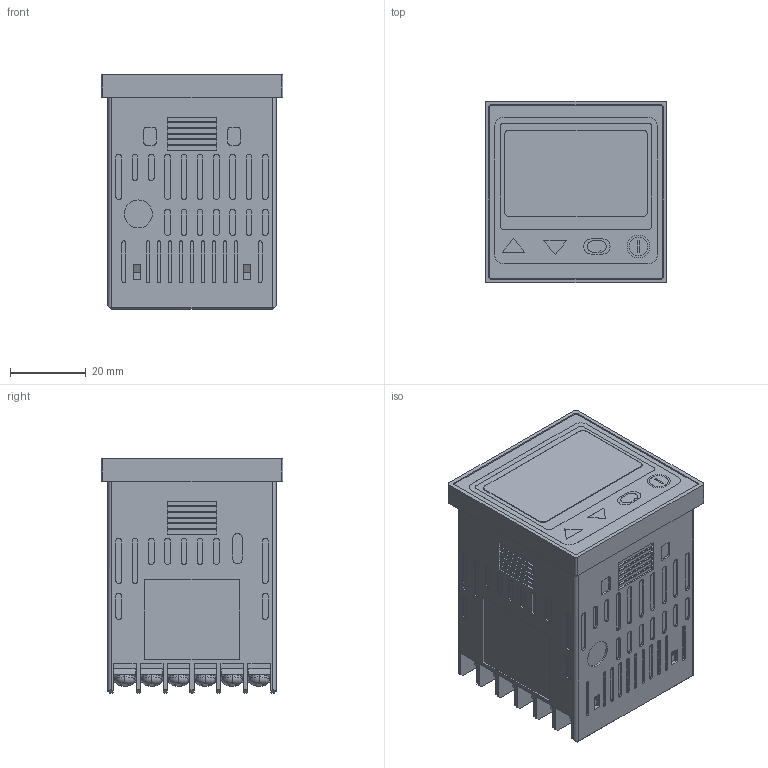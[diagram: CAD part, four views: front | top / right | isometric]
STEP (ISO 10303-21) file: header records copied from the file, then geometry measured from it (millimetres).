
FILE_DESCRIPTION (( 'STEP AP203' ), '1' );
FILE_NAME ('ACS-13A.STEP', '2016-04-19T00:46:23', ( '' ), ( '' ), 'SwSTEP 2.0', 'SolidWorks 2013', '' );
FILE_SCHEMA (( 'CONFIG_CONTROL_DESIGN' ));
Length unit declared in the file: millimetre
Products named in the file (1): ACS-13A
Bounding box: 48 x 48 x 62 mm (x, y, z)
Volume: 114981.1 mm3; surface area: 21378.3 mm2
Topology: 1 solids, 1 shells, 1048 faces, 2649 edges, 1754 vertices
Faces by surface type: plane 716, cylinder 296, torus 36
Entity records: 31482 total; most frequent: CARTESIAN_POINT 5476, DIRECTION 5399, ORIENTED_EDGE 5298, EDGE_CURVE 2649, VECTOR 1981, LINE 1981, VERTEX_POINT 1754, AXIS2_PLACEMENT_3D 1709
